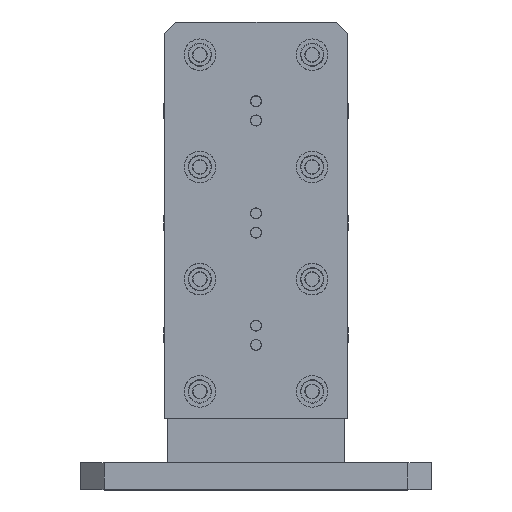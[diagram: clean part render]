
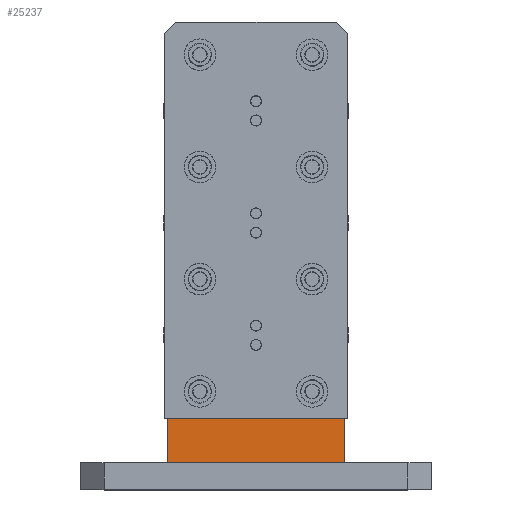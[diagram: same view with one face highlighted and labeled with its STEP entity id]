
A CAD part, top view. The second image highlights one B-rep face of the part: STEP entity #25237.
In plain terms, the highlighted planar face has unit normal (0, 0, 1).
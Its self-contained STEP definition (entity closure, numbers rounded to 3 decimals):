
#194 = CARTESIAN_POINT ( 'NONE',  ( 75.968, 38.1, 47.968 ) ) ;
#396 = EDGE_CURVE ( 'NONE', #5616, #5138, #11518, .T. ) ;
#411 = DIRECTION ( 'NONE',  ( 0., 0., 1. ) ) ;
#699 = VECTOR ( 'NONE', #10390, 1000. ) ;
#1700 = ORIENTED_EDGE ( 'NONE', *, *, #13816, .F. ) ;
#1822 = EDGE_LOOP ( 'NONE', ( #1700, #9555, #15194, #26224 ) ) ;
#3450 = LINE ( 'NONE', #15279, #699 ) ;
#4472 = DIRECTION ( 'NONE',  ( -1., 0., 0. ) ) ;
#4852 = DIRECTION ( 'NONE',  ( 0., -1., 0. ) ) ;
#5138 = VERTEX_POINT ( 'NONE', #10280 ) ;
#5616 = VERTEX_POINT ( 'NONE', #28354 ) ;
#8933 = CARTESIAN_POINT ( 'NONE',  ( -75.968, 0., 47.968 ) ) ;
#9555 = ORIENTED_EDGE ( 'NONE', *, *, #16754, .F. ) ;
#10170 = VERTEX_POINT ( 'NONE', #26754 ) ;
#10280 = CARTESIAN_POINT ( 'NONE',  ( -75.968, 38.1, 47.968 ) ) ;
#10348 = FACE_OUTER_BOUND ( 'NONE', #1822, .T. ) ;
#10390 = DIRECTION ( 'NONE',  ( 0., -1., 0. ) ) ;
#10396 = DIRECTION ( 'NONE',  ( -1., 0., 0. ) ) ;
#11518 = LINE ( 'NONE', #23993, #12290 ) ;
#11592 = LINE ( 'NONE', #22287, #24845 ) ;
#12290 = VECTOR ( 'NONE', #4472, 1000. ) ;
#13816 = EDGE_CURVE ( 'NONE', #10170, #25051, #26629, .T. ) ;
#15194 = ORIENTED_EDGE ( 'NONE', *, *, #396, .T. ) ;
#15279 = CARTESIAN_POINT ( 'NONE',  ( -75.968, 38.1, 47.968 ) ) ;
#16373 = EDGE_CURVE ( 'NONE', #5138, #25051, #3450, .T. ) ;
#16754 = EDGE_CURVE ( 'NONE', #5616, #10170, #11592, .T. ) ;
#20441 = CARTESIAN_POINT ( 'NONE',  ( 75.968, 0., 47.968 ) ) ;
#21564 = VECTOR ( 'NONE', #10396, 1000. ) ;
#22287 = CARTESIAN_POINT ( 'NONE',  ( 75.968, 38.1, 47.968 ) ) ;
#22396 = PLANE ( 'NONE',  #27914 ) ;
#23993 = CARTESIAN_POINT ( 'NONE',  ( 75.968, 38.1, 47.968 ) ) ;
#24845 = VECTOR ( 'NONE', #4852, 1000. ) ;
#25051 = VERTEX_POINT ( 'NONE', #8933 ) ;
#25237 = ADVANCED_FACE ( 'NONE', ( #10348 ), #22396, .T. ) ;
#26224 = ORIENTED_EDGE ( 'NONE', *, *, #16373, .T. ) ;
#26629 = LINE ( 'NONE', #20441, #21564 ) ;
#26754 = CARTESIAN_POINT ( 'NONE',  ( 75.968, 0., 47.968 ) ) ;
#27755 = DIRECTION ( 'NONE',  ( 1., 0., 0. ) ) ;
#27914 = AXIS2_PLACEMENT_3D ( 'NONE', #194, #411, #27755 ) ;
#28354 = CARTESIAN_POINT ( 'NONE',  ( 75.968, 38.1, 47.968 ) ) ;
